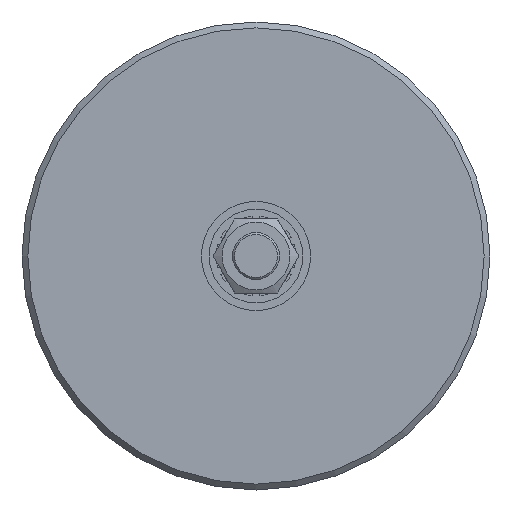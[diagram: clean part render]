
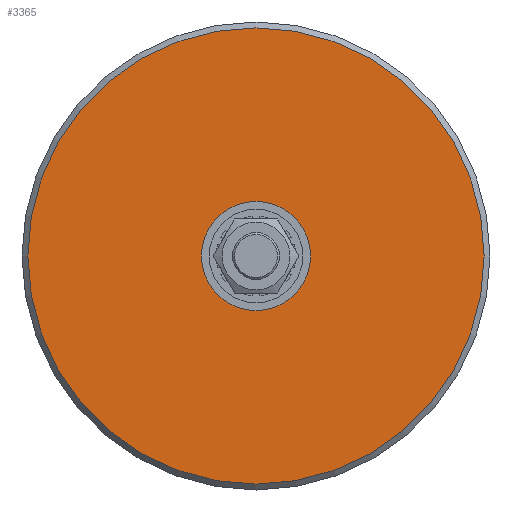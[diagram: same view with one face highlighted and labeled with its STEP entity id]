
A CAD part, left-side view. The second image highlights one B-rep face of the part: STEP entity #3365.
In plain terms, the highlighted planar face has unit normal (-1, 0, 0).
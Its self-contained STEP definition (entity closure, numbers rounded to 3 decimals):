
#690=FACE_BOUND('',#979,.T.);
#780=FACE_OUTER_BOUND('',#978,.T.);
#978=EDGE_LOOP('',(#2330));
#979=EDGE_LOOP('',(#2331));
#1266=CIRCLE('',#3582,58.5);
#1267=CIRCLE('',#3583,12.75);
#1500=VERTEX_POINT('',#5168);
#1501=VERTEX_POINT('',#5170);
#1846=EDGE_CURVE('',#1500,#1500,#1266,.T.);
#1847=EDGE_CURVE('',#1501,#1501,#1267,.T.);
#2330=ORIENTED_EDGE('',*,*,#1846,.F.);
#2331=ORIENTED_EDGE('',*,*,#1847,.T.);
#3298=PLANE('',#3581);
#3365=ADVANCED_FACE('',(#780,#690),#3298,.T.);
#3581=AXIS2_PLACEMENT_3D('',#5167,#4050,#4051);
#3582=AXIS2_PLACEMENT_3D('',#5169,#4052,#4053);
#3583=AXIS2_PLACEMENT_3D('',#5171,#4054,#4055);
#4050=DIRECTION('center_axis',(-1.,0.,0.));
#4051=DIRECTION('ref_axis',(0.,0.,1.));
#4052=DIRECTION('center_axis',(1.,0.,0.));
#4053=DIRECTION('ref_axis',(0.,1.,0.));
#4054=DIRECTION('center_axis',(1.,0.,0.));
#4055=DIRECTION('ref_axis',(0.,1.,0.));
#5167=CARTESIAN_POINT('Origin',(-15.,35.625,0.));
#5168=CARTESIAN_POINT('',(-15.,58.5,0.));
#5169=CARTESIAN_POINT('Origin',(-15.,0.,0.));
#5170=CARTESIAN_POINT('',(-15.,12.75,0.));
#5171=CARTESIAN_POINT('Origin',(-15.,0.,0.));
